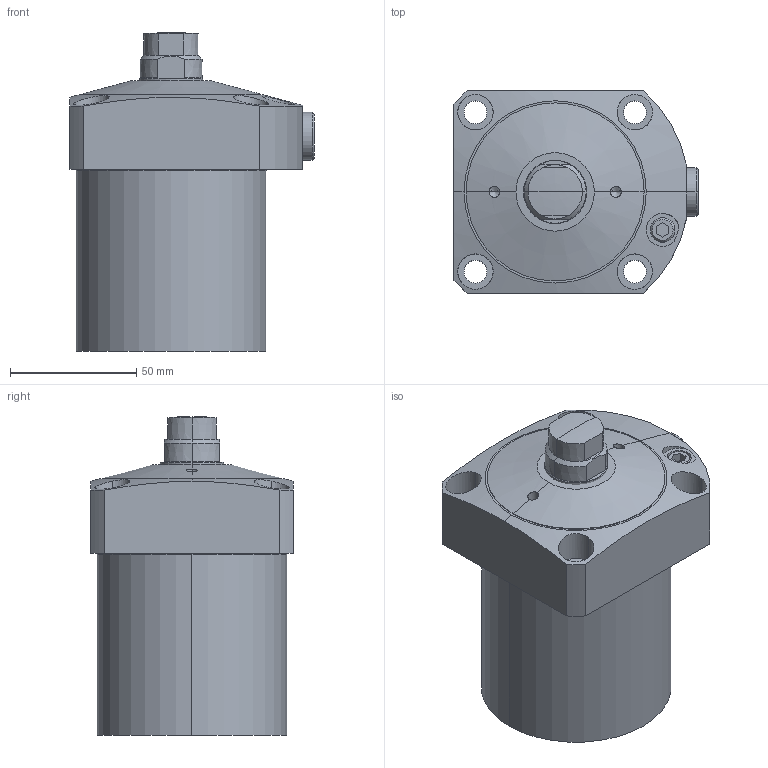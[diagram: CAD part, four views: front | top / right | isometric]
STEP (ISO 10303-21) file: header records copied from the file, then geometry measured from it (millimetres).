
FILE_DESCRIPTION(/* description */ (''),/* implementation_level */ '2;1');
FILE_NAME(/* name */ 'KFSC75.stp',/* time_stamp */ '2022-11-16T16:38:28+08:00',/* author */ (''),/* organization */ (''),/* preprocessor_version */ 'ST-DEVELOPER v16.7',/* originating_system */ 'SIEMENS PLM Software NX 12.0',/* authorisation */ '');
FILE_SCHEMA (('AP203_CONFIGURATION_CONTROLLED_3D_DESIGN_OF_MECHANICAL_PARTS_AND_ASSEMBLIES_MIM_LF { 1 0 10303 403 2 1 2}'));
Length unit declared in the file: millimetre
Products named in the file (5): KFSC75-01; KFSC75-02; KFSC75-03; KFSC75-04; LC0752-Cx_step
Assembly tree (4 placements, depth 2):
  LC0752-Cx_step
    KFSC75-04
    KFSC75-03
    KFSC75-02
    KFSC75-01
Bounding box: 96.5 x 80 x 126 mm (x, y, z)
Volume: 533031.3 mm3; surface area: 48442.4 mm2
Topology: 4 solids, 4 shells, 119 faces, 272 edges, 169 vertices
Faces by surface type: plane 45, cylinder 44, cone 26, bspline 2, torus 2
Entity records: 4145 total; most frequent: CARTESIAN_POINT 891, DIRECTION 589, ORIENTED_EDGE 532, EDGE_CURVE 266, AXIS2_PLACEMENT_3D 237, VERTEX_POINT 169, EDGE_LOOP 141, ADVANCED_FACE 119
